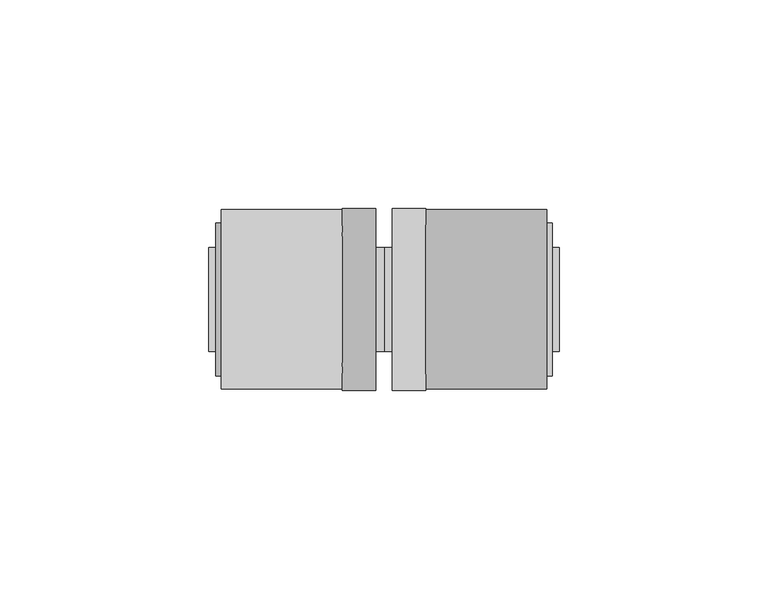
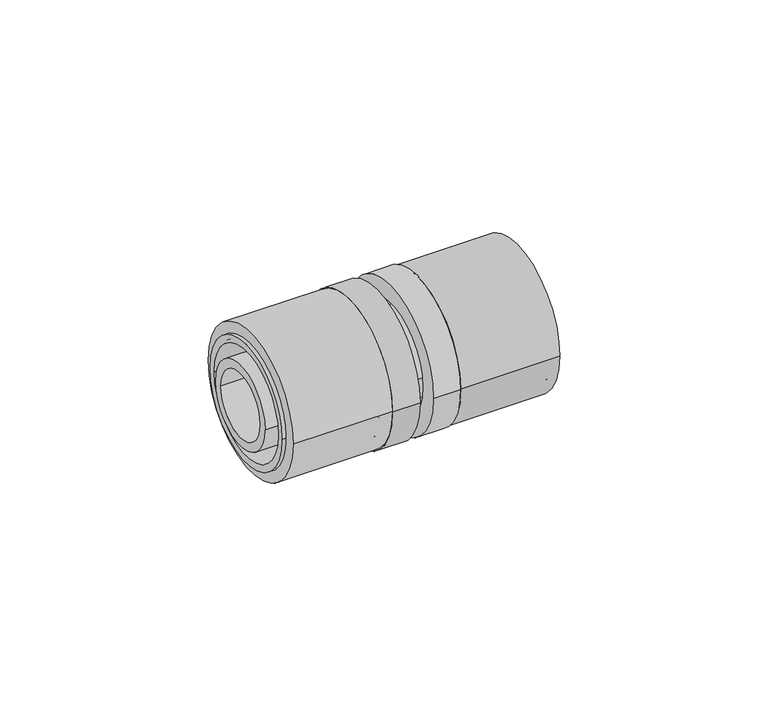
"""IFC4 building model written with IfcOpenShell, lengths in millimetres: pipe fitting geometry, FASTLOC_Coupling equal LX : FSL C LX CZ."""

from ifc_helpers import new_model, si_unit, point, frame, origin, origin_2d, place, context, project, spatial, polyline, circle_curve, trimmed, segment, composite_curve, outline, extrude, source, transform, mapped, element, save
from ifc_brep_helpers import plane_surface, cylinder_surface, revolved_surface, advanced_brep


def pipe_fitting_f5731c1c(model_context):
    return source(origin(), model_context, "Body", "SolidModel", [
        extrude(outline(composite_curve([segment(trimmed(circle_curve(origin_2d(), 21.5), [point((-21.5, 0.0))], [point((21.5, 0.0))], False, "CARTESIAN"), True, "CONTINUOUS"), segment(trimmed(circle_curve(origin_2d(), 21.5), [point((21.5, 0.0))], [point((-21.5, 0.0))], False, "CARTESIAN"), True, "CONTINUOUS")], self_intersect=False), holes=[composite_curve([segment(trimmed(circle_curve(origin_2d(), 16.85), [point((-16.85, 0.0))], [point((16.85, 0.0))], True, "CARTESIAN"), True, "CONTINUOUS"), segment(trimmed(circle_curve(origin_2d(), 16.85), [point((16.85, 0.0))], [point((-16.85, 0.0))], True, "CARTESIAN"), True, "CONTINUOUS")], self_intersect=False)]), frame((10.0, 0.0, 0.0), z_axis=(1.0, 0.0, 0.0), x_axis=(0.0, 1.0, 0.0)), (0.0, 0.0, 1.0), 29.0),
        advanced_brep(
        [(10.0, 21.8, 0.0), (10.0, -21.8, 0.0), (2.0, -21.8, 0.0), (2.0, 21.8, 0.0), (40.3, 18.35, 0.0), (40.3, -18.35, 0.0), (10.0, -18.35, 0.0), (10.0, 18.35, 0.0), (2.0, 16.2, 0.0), (2.0, -16.2, 0.0), (40.3, -16.2, 0.0), (40.3, 16.2, 0.0)],
        [
            (0, 1, circle_curve(frame((10.0, 0.0, 0.0), z_axis=(-1.0, 0.0, 0.0), x_axis=(0.0, -1.0, 0.0)), 21.8)),
            (1, 2),
            (2, 3, circle_curve(frame((2.0, 0.0, 0.0), z_axis=(1.0, 0.0, 0.0), x_axis=(0.0, -1.0, 0.0)), 21.8)),
            (3, 0),
            (4, 5, circle_curve(frame((40.3, 0.0, 0.0), z_axis=(-1.0, 0.0, 0.0), x_axis=(0.0, -1.0, 0.0)), 18.35)),
            (5, 6),
            (6, 7, circle_curve(frame((10.0, 0.0, 0.0), z_axis=(1.0, 0.0, 0.0), x_axis=(0.0, -1.0, 0.0)), 18.35)),
            (7, 4),
            (8, 9, circle_curve(frame((2.0, 0.0, 0.0), z_axis=(-1.0, 0.0, 0.0), x_axis=(0.0, -1.0, 0.0)), 16.2)),
            (9, 10),
            (10, 11, circle_curve(frame((40.3, 0.0, 0.0), z_axis=(1.0, 0.0, 0.0), x_axis=(0.0, -1.0, 0.0)), 16.2)),
            (11, 8),
            (1, 0, circle_curve(frame((10.0, 0.0, 0.0), z_axis=(-1.0, 0.0, 0.0), x_axis=(0.0, 1.0, 0.0)), 21.8)),
            (3, 2, circle_curve(frame((2.0, 0.0, 0.0), z_axis=(1.0, 0.0, 0.0), x_axis=(0.0, 1.0, 0.0)), 21.8)),
            (6, 7, circle_curve(frame((10.0, 0.0, 0.0), z_axis=(-1.0, 0.0, 0.0), x_axis=(0.0, 1.0, 0.0)), 18.35)),
            (5, 4, circle_curve(frame((40.3, 0.0, 0.0), z_axis=(-1.0, 0.0, 0.0), x_axis=(0.0, 1.0, 0.0)), 18.35)),
            (10, 11, circle_curve(frame((40.3, 0.0, 0.0), z_axis=(-1.0, 0.0, 0.0), x_axis=(0.0, 1.0, 0.0)), 16.2)),
            (9, 8, circle_curve(frame((2.0, 0.0, 0.0), z_axis=(-1.0, 0.0, 0.0), x_axis=(0.0, 1.0, 0.0)), 16.2)),
        ],
        [
            cylinder_surface(frame((2.0, 0.0, 0.0), z_axis=(1.0, 0.0, 0.0), x_axis=(0.0, -1.0, 0.0)), 21.8),
            cylinder_surface(frame((2.0, 0.0, 0.0), z_axis=(1.0, 0.0, 0.0), x_axis=(0.0, -1.0, 0.0)), 18.35),
            revolved_surface(polyline([(40.3, -16.2, 0.0), (2.0, -16.2, 0.0)]), (2.0, 0.0, 0.0), (1.0, 0.0, 0.0)),
            cylinder_surface(frame((2.0, 0.0, 0.0), z_axis=(1.0, 0.0, 0.0), x_axis=(0.0, 1.0, 0.0)), 21.8),
            plane_surface(frame((10.0, 0.0, 0.0), z_axis=(1.0, 0.0, 0.0), x_axis=(0.0, 1.0, 0.0))),
            cylinder_surface(frame((2.0, 0.0, 0.0), z_axis=(1.0, 0.0, 0.0), x_axis=(0.0, 1.0, 0.0)), 18.35),
            plane_surface(frame((40.3, 0.0, 0.0), z_axis=(1.0, 0.0, 0.0), x_axis=(0.0, 1.0, 0.0))),
            revolved_surface(polyline([(40.3, 16.2, 0.0), (2.0, 16.2, 0.0)]), (2.0, 0.0, 0.0), (1.0, 0.0, 0.0)),
            plane_surface(frame((2.0, 0.0, 0.0), z_axis=(-1.0, 0.0, 0.0), x_axis=(0.0, 1.0, 0.0))),
        ],
        [
            (0, [[1, 2, 3, 4]]),
            (1, [[5, 6, 7, 8]]),
            (2, [[9, 10, 11, 12]]),
            (3, [[13, -4, 14, -2]]),
            (4, [[-13, -1], [15, -7]]),
            (5, [[16, -8, -15, -6]]),
            (6, [[-16, -5], [17, -11]]),
            (7, [[18, -12, -17, -10]]),
            (8, [[-14, -3], [-18, -9]]),
        ],
    ),
        extrude(outline(composite_curve([segment(trimmed(circle_curve(origin_2d(), 21.5), [point((21.5, 0.0))], [point((-21.5, 0.0))], False, "CARTESIAN"), True, "CONTINUOUS"), segment(trimmed(circle_curve(origin_2d(), 21.5), [point((-21.5, 0.0))], [point((21.5, 0.0))], False, "CARTESIAN"), True, "CONTINUOUS")], self_intersect=False), holes=[composite_curve([segment(trimmed(circle_curve(origin_2d(), 16.85), [point((16.85, 0.0))], [point((-16.85, 0.0))], True, "CARTESIAN"), True, "CONTINUOUS"), segment(trimmed(circle_curve(origin_2d(), 16.85), [point((-16.85, 0.0))], [point((16.85, 0.0))], True, "CARTESIAN"), True, "CONTINUOUS")], self_intersect=False)]), frame((-39.0, 0.0, 0.0), z_axis=(1.0, 0.0, 0.0), x_axis=(0.0, 1.0, 0.0)), (0.0, 0.0, 1.0), 29.0),
        advanced_brep(
        [(-10.0, -21.8, 0.0), (-10.0, 21.8, 0.0), (-2.0, 21.8, 0.0), (-2.0, -21.8, 0.0), (-40.3, -18.35, 0.0), (-40.3, 18.35, 0.0), (-10.0, 18.35, 0.0), (-10.0, -18.35, 0.0), (-2.0, -16.2, 0.0), (-2.0, 16.2, 0.0), (-40.3, 16.2, 0.0), (-40.3, -16.2, 0.0)],
        [
            (0, 1, circle_curve(frame((-10.0, 0.0, 0.0), z_axis=(1.0, 0.0, 0.0), x_axis=(0.0, 1.0, 0.0)), 21.8)),
            (1, 2),
            (2, 3, circle_curve(frame((-2.0, 0.0, 0.0), z_axis=(-1.0, 0.0, 0.0), x_axis=(0.0, 1.0, 0.0)), 21.8)),
            (3, 0),
            (4, 5, circle_curve(frame((-40.3, 0.0, 0.0), z_axis=(1.0, 0.0, 0.0), x_axis=(0.0, 1.0, 0.0)), 18.35)),
            (5, 6),
            (6, 7, circle_curve(frame((-10.0, 0.0, 0.0), z_axis=(-1.0, 0.0, 0.0), x_axis=(0.0, 1.0, 0.0)), 18.35)),
            (7, 4),
            (8, 9, circle_curve(frame((-2.0, 0.0, 0.0), z_axis=(1.0, 0.0, 0.0), x_axis=(0.0, 1.0, 0.0)), 16.2)),
            (9, 10),
            (10, 11, circle_curve(frame((-40.3, 0.0, 0.0), z_axis=(-1.0, 0.0, 0.0), x_axis=(0.0, 1.0, 0.0)), 16.2)),
            (11, 8),
            (1, 0, circle_curve(frame((-10.0, 0.0, 0.0), z_axis=(1.0, 0.0, 0.0), x_axis=(0.0, -1.0, 0.0)), 21.8)),
            (3, 2, circle_curve(frame((-2.0, 0.0, 0.0), z_axis=(-1.0, 0.0, 0.0), x_axis=(0.0, -1.0, 0.0)), 21.8)),
            (6, 7, circle_curve(frame((-10.0, 0.0, 0.0), z_axis=(1.0, 0.0, 0.0), x_axis=(0.0, -1.0, 0.0)), 18.35)),
            (5, 4, circle_curve(frame((-40.3, 0.0, 0.0), z_axis=(1.0, 0.0, 0.0), x_axis=(0.0, -1.0, 0.0)), 18.35)),
            (10, 11, circle_curve(frame((-40.3, 0.0, 0.0), z_axis=(1.0, 0.0, 0.0), x_axis=(0.0, -1.0, 0.0)), 16.2)),
            (9, 8, circle_curve(frame((-2.0, 0.0, 0.0), z_axis=(1.0, 0.0, 0.0), x_axis=(0.0, -1.0, 0.0)), 16.2)),
        ],
        [
            cylinder_surface(frame((-2.0, 0.0, 0.0), z_axis=(-1.0, 0.0, 0.0), x_axis=(0.0, 1.0, 0.0)), 21.8),
            cylinder_surface(frame((-2.0, 0.0, 0.0), z_axis=(-1.0, 0.0, 0.0), x_axis=(0.0, 1.0, 0.0)), 18.35),
            revolved_surface(polyline([(-40.3, 16.2, 0.0), (-2.0, 16.2, 0.0)]), (-2.0, 0.0, 0.0), (-1.0, 0.0, 0.0)),
            cylinder_surface(frame((-2.0, 0.0, 0.0), z_axis=(-1.0, 0.0, 0.0), x_axis=(0.0, -1.0, 0.0)), 21.8),
            plane_surface(frame((-10.0, 0.0, 0.0), z_axis=(-1.0, 0.0, 0.0), x_axis=(0.0, -1.0, 0.0))),
            cylinder_surface(frame((-2.0, 0.0, 0.0), z_axis=(-1.0, 0.0, 0.0), x_axis=(0.0, -1.0, 0.0)), 18.35),
            plane_surface(frame((-40.3, 0.0, 0.0), z_axis=(-1.0, 0.0, 0.0), x_axis=(0.0, -1.0, 0.0))),
            revolved_surface(polyline([(-40.3, -16.2, 0.0), (-2.0, -16.2, 0.0)]), (-2.0, 0.0, 0.0), (-1.0, 0.0, 0.0)),
            plane_surface(frame((-2.0, 0.0, 0.0), z_axis=(1.0, 0.0, 0.0), x_axis=(0.0, -1.0, 0.0))),
        ],
        [
            (0, [[1, 2, 3, 4]]),
            (1, [[5, 6, 7, 8]]),
            (2, [[9, 10, 11, 12]]),
            (3, [[13, -4, 14, -2]]),
            (4, [[-13, -1], [15, -7]]),
            (5, [[16, -8, -15, -6]]),
            (6, [[-16, -5], [17, -11]]),
            (7, [[18, -12, -17, -10]]),
            (8, [[-14, -3], [-18, -9]]),
        ],
    ),
        advanced_brep(
        [(10.0, 14.1, 0.0), (10.0, -14.1, 0.0), (7.0, -14.1, 0.0), (7.0, 14.1, 0.0), (42.0, 12.5, 0.0), (42.0, -12.5, 0.0), (10.0, -12.5, 0.0), (10.0, 12.5, 0.0), (-42.0, 9.85, 0.0), (-42.0, -9.85, 0.0), (42.0, -9.85, 0.0), (42.0, 9.85, 0.0), (-10.0, 12.5, 0.0), (-10.0, -12.5, 0.0), (-42.0, -12.5, 0.0), (-42.0, 12.5, 0.0), (-7.0, 14.1, 0.0), (-7.0, -14.1, 0.0), (-10.0, -14.1, 0.0), (-10.0, 14.1, 0.0), (0.0, 12.5, 0.0), (0.0, -12.5, 0.0), (-7.0, -12.5, 0.0), (-7.0, 12.5, 0.0), (7.0, 12.5, 0.0), (7.0, -12.5, 0.0)],
        [
            (0, 1, circle_curve(frame((10.0, 0.0, 0.0), z_axis=(-1.0, 0.0, 0.0), x_axis=(0.0, -1.0, 0.0)), 14.1)),
            (1, 2),
            (2, 3, circle_curve(frame((7.0, 0.0, 0.0), z_axis=(1.0, 0.0, 0.0), x_axis=(0.0, -1.0, 0.0)), 14.1)),
            (3, 0),
            (4, 5, circle_curve(frame((42.0, 0.0, 0.0), z_axis=(-1.0, 0.0, 0.0), x_axis=(0.0, -1.0, 0.0)), 12.5)),
            (5, 6),
            (6, 7, circle_curve(frame((10.0, 0.0, 0.0), z_axis=(1.0, 0.0, 0.0), x_axis=(0.0, -1.0, 0.0)), 12.5)),
            (7, 4),
            (8, 9, circle_curve(frame((-42.0, 0.0, 0.0), z_axis=(-1.0, 0.0, 0.0), x_axis=(0.0, -1.0, 0.0)), 9.85)),
            (9, 10),
            (10, 11, circle_curve(frame((42.0, 0.0, 0.0), z_axis=(1.0, 0.0, 0.0), x_axis=(0.0, -1.0, 0.0)), 9.85)),
            (11, 8),
            (12, 13, circle_curve(frame((-10.0, 0.0, 0.0), z_axis=(-1.0, 0.0, 0.0), x_axis=(0.0, -1.0, 0.0)), 12.5)),
            (13, 14),
            (14, 15, circle_curve(frame((-42.0, 0.0, 0.0), z_axis=(1.0, 0.0, 0.0), x_axis=(0.0, -1.0, 0.0)), 12.5)),
            (15, 12),
            (16, 17, circle_curve(frame((-7.0, 0.0, 0.0), z_axis=(-1.0, 0.0, 0.0), x_axis=(0.0, -1.0, 0.0)), 14.1)),
            (17, 18),
            (18, 19, circle_curve(frame((-10.0, 0.0, 0.0), z_axis=(1.0, 0.0, 0.0), x_axis=(0.0, -1.0, 0.0)), 14.1)),
            (19, 16),
            (20, 21, circle_curve(frame((0.0, 0.0, 0.0), z_axis=(-1.0, 0.0, 0.0), x_axis=(0.0, -1.0, 0.0)), 12.5)),
            (21, 22),
            (22, 23, circle_curve(frame((-7.0, 0.0, 0.0), z_axis=(1.0, 0.0, 0.0), x_axis=(0.0, -1.0, 0.0)), 12.5)),
            (23, 20),
            (24, 25, circle_curve(frame((7.0, 0.0, 0.0), z_axis=(-1.0, 0.0, 0.0), x_axis=(0.0, -1.0, 0.0)), 12.5)),
            (25, 21),
            (20, 24),
            (1, 0, circle_curve(frame((10.0, 0.0, 0.0), z_axis=(-1.0, 0.0, 0.0), x_axis=(0.0, 1.0, 0.0)), 14.1)),
            (3, 2, circle_curve(frame((7.0, 0.0, 0.0), z_axis=(1.0, 0.0, 0.0), x_axis=(0.0, 1.0, 0.0)), 14.1)),
            (6, 7, circle_curve(frame((10.0, 0.0, 0.0), z_axis=(-1.0, 0.0, 0.0), x_axis=(0.0, 1.0, 0.0)), 12.5)),
            (5, 4, circle_curve(frame((42.0, 0.0, 0.0), z_axis=(-1.0, 0.0, 0.0), x_axis=(0.0, 1.0, 0.0)), 12.5)),
            (10, 11, circle_curve(frame((42.0, 0.0, 0.0), z_axis=(-1.0, 0.0, 0.0), x_axis=(0.0, 1.0, 0.0)), 9.85)),
            (9, 8, circle_curve(frame((-42.0, 0.0, 0.0), z_axis=(-1.0, 0.0, 0.0), x_axis=(0.0, 1.0, 0.0)), 9.85)),
            (14, 15, circle_curve(frame((-42.0, 0.0, 0.0), z_axis=(-1.0, 0.0, 0.0), x_axis=(0.0, 1.0, 0.0)), 12.5)),
            (13, 12, circle_curve(frame((-10.0, 0.0, 0.0), z_axis=(-1.0, 0.0, 0.0), x_axis=(0.0, 1.0, 0.0)), 12.5)),
            (18, 19, circle_curve(frame((-10.0, 0.0, 0.0), z_axis=(-1.0, 0.0, 0.0), x_axis=(0.0, 1.0, 0.0)), 14.1)),
            (17, 16, circle_curve(frame((-7.0, 0.0, 0.0), z_axis=(-1.0, 0.0, 0.0), x_axis=(0.0, 1.0, 0.0)), 14.1)),
            (22, 23, circle_curve(frame((-7.0, 0.0, 0.0), z_axis=(-1.0, 0.0, 0.0), x_axis=(0.0, 1.0, 0.0)), 12.5)),
            (21, 20, circle_curve(frame((0.0, 0.0, 0.0), z_axis=(-1.0, 0.0, 0.0), x_axis=(0.0, 1.0, 0.0)), 12.5)),
            (25, 24, circle_curve(frame((7.0, 0.0, 0.0), z_axis=(-1.0, 0.0, 0.0), x_axis=(0.0, 1.0, 0.0)), 12.5)),
        ],
        [
            cylinder_surface(frame((0.0, 0.0, 0.0), z_axis=(1.0, 0.0, 0.0), x_axis=(0.0, -1.0, 0.0)), 14.1),
            cylinder_surface(frame((0.0, 0.0, 0.0), z_axis=(1.0, 0.0, 0.0), x_axis=(0.0, -1.0, 0.0)), 12.5),
            revolved_surface(polyline([(42.0, -9.85, 0.0), (-42.0, -9.85, 0.0)]), (0.0, 0.0, 0.0), (1.0, 0.0, 0.0)),
            cylinder_surface(frame((0.0, 0.0, 0.0), z_axis=(1.0, 0.0, 0.0), x_axis=(0.0, 1.0, 0.0)), 14.1),
            plane_surface(frame((10.0, 0.0, 0.0), z_axis=(1.0, 0.0, 0.0), x_axis=(0.0, 1.0, 0.0))),
            cylinder_surface(frame((0.0, 0.0, 0.0), z_axis=(1.0, 0.0, 0.0), x_axis=(0.0, 1.0, 0.0)), 12.5),
            plane_surface(frame((42.0, 0.0, 0.0), z_axis=(1.0, 0.0, 0.0), x_axis=(0.0, 1.0, 0.0))),
            revolved_surface(polyline([(42.0, 9.85, 0.0), (-42.0, 9.85, 0.0)]), (0.0, 0.0, 0.0), (1.0, 0.0, 0.0)),
            plane_surface(frame((-42.0, 0.0, 0.0), z_axis=(-1.0, 0.0, 0.0), x_axis=(0.0, 1.0, 0.0))),
            plane_surface(frame((-10.0, 0.0, 0.0), z_axis=(-1.0, 0.0, 0.0), x_axis=(0.0, 1.0, 0.0))),
            plane_surface(frame((-7.0, 0.0, 0.0), z_axis=(1.0, 0.0, 0.0), x_axis=(0.0, 1.0, 0.0))),
            plane_surface(frame((7.0, 0.0, 0.0), z_axis=(-1.0, 0.0, 0.0), x_axis=(0.0, 1.0, 0.0))),
        ],
        [
            (0, [[1, 2, 3, 4]]),
            (1, [[5, 6, 7, 8]]),
            (2, [[9, 10, 11, 12]]),
            (1, [[13, 14, 15, 16]]),
            (0, [[17, 18, 19, 20]]),
            (1, [[21, 22, 23, 24]]),
            (1, [[25, 26, -21, 27]]),
            (3, [[28, -4, 29, -2]]),
            (4, [[-28, -1], [30, -7]]),
            (5, [[31, -8, -30, -6]]),
            (6, [[-31, -5], [32, -11]]),
            (7, [[33, -12, -32, -10]]),
            (8, [[34, -15], [-33, -9]]),
            (5, [[35, -16, -34, -14]]),
            (9, [[36, -19], [-35, -13]]),
            (3, [[37, -20, -36, -18]]),
            (10, [[-37, -17], [38, -23]]),
            (5, [[39, -24, -38, -22]]),
            (5, [[40, -27, -39, -26]]),
            (11, [[-29, -3], [-40, -25]]),
        ],
    ),
    ])


if __name__ == "__main__":
    model = new_model("IFC4")
    model_context = context("Model", 3, world=origin())
    ifc_project = project(units=[si_unit("LENGTHUNIT", "METRE", prefix="MILLI")], contexts=[model_context])
    site = spatial("IfcSite", under=ifc_project)
    building = spatial("IfcBuilding", under=site)
    placement = place(None, origin())
    pipe_fitting_shape = pipe_fitting_f5731c1c(model_context)
    element("IfcPipeFitting", 1, ObjectType="FASTLOC_Coupling equal LX : FSL C LX CZ", at=placement, inside=building, context=model_context, shape_type="MappedRepresentation", body=[
        mapped(pipe_fitting_shape, transform((0.0, 0.0, 0.0), x_axis=(1.0, 0.0, 0.0), y_axis=(0.0, 1.0, 0.0), z_axis=(0.0, 0.0, 1.0))),
    ])
    save(model, "model.ifc")
